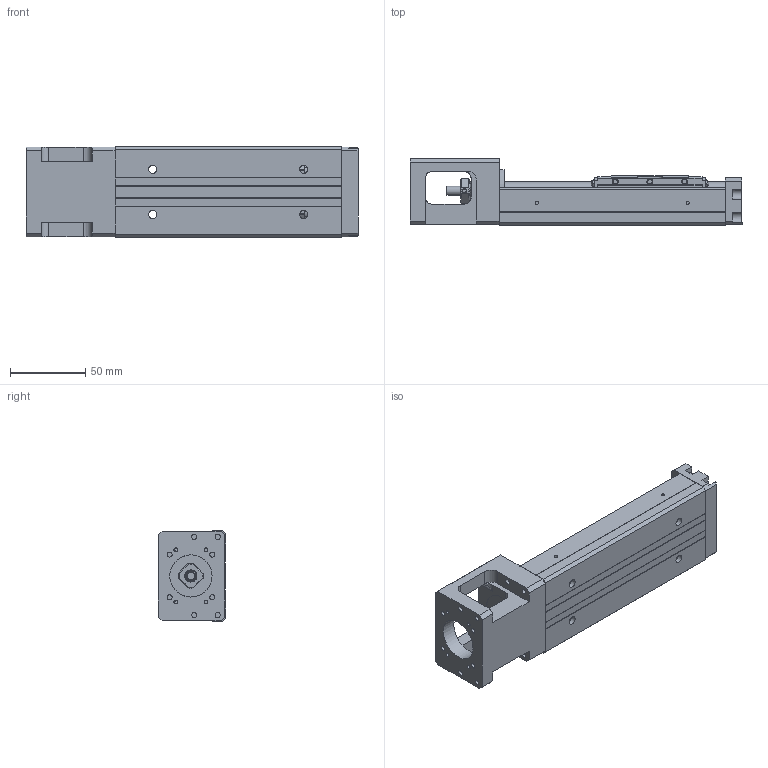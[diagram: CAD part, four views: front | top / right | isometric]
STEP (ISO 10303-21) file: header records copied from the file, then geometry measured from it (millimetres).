
FILE_DESCRIPTION(/* description */ (''),/* implementation_level */ '2;1');
FILE_NAME(/* name */ 'KP33N-150C02-1.stp',/* time_stamp */ '2020-07-01T11:20:18+08:00',/* author */ (''),/* organization */ (''),/* preprocessor_version */ 'ST-DEVELOPER v14',/* originating_system */ 'SIEMENS PLM Software NX 8.0',/* authorisation */ '');
FILE_SCHEMA (('AUTOMOTIVE_DESIGN { 1 0 10303 214 3 1 1 1 }'));
Length unit declared in the file: millimetre
Products named in the file (1): model1
Bounding box: 220 x 44.45 x 60 mm (x, y, z)
Volume: 303082.1 mm3; surface area: 85369.7 mm2
Topology: 5 solids, 10 shells, 595 faces, 1536 edges, 1012 vertices
Faces by surface type: plane 355, cylinder 157, bspline 31, cone 22, extrusion 21, torus 7, sphere 2
Full cylindrical faces by diameter (mm): 1.6 x2, 1.65 x4, 2.15 x2, 2.42 x4, 2.45 x2, 2.5 x4, 3 x3, 3.2 x4, 3.3 x4, 3.4 x3, 3.5 x10, 3.969 x1, 4 x6, 4.001 x1, 4.135 x4, 5.5 x4, 6 x5, 7.6 x1, 8 x5, 9.5 x4, 10.72 x3, 11.8 x2, 12 x1, 12.8 x1, 13 x2, 14 x1, 16 x4, 21.5 x1, 28 x1
Entity records: 28676 total; most frequent: CARTESIAN_POINT 14847, DIRECTION 2757, ORIENTED_EDGE 2714, EDGE_CURVE 1357, AXIS2_PLACEMENT_3D 956, VERTEX_POINT 950, VECTOR 845, EDGE_LOOP 829
